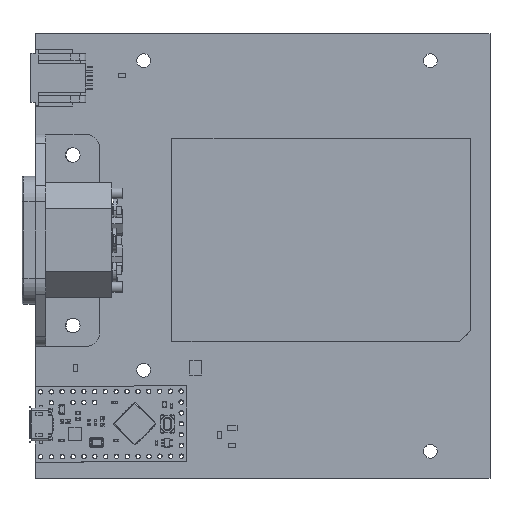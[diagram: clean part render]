
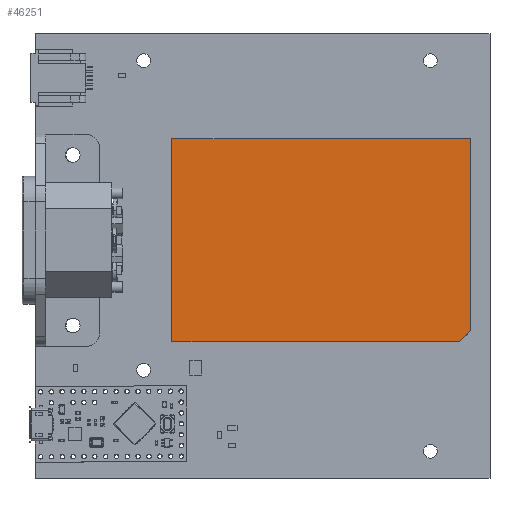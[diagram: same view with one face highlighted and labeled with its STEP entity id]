
A CAD part, top view. The second image highlights one B-rep face of the part: STEP entity #46251.
In plain terms, the highlighted planar face has unit normal (0, 0, 1).
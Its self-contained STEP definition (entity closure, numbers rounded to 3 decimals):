
#46090 = VERTEX_POINT('',#46091);
#46091 = CARTESIAN_POINT('',(-35.,23.75,24.13));
#46097 = EDGE_CURVE('',#46090,#46098,#46100,.T.);
#46098 = VERTEX_POINT('',#46099);
#46099 = CARTESIAN_POINT('',(-35.,-23.75,24.13));
#46100 = LINE('',#46101,#46102);
#46101 = CARTESIAN_POINT('',(-35.,23.75,24.13));
#46102 = VECTOR('',#46103,1.);
#46103 = DIRECTION('',(0.,-1.,0.));
#46128 = EDGE_CURVE('',#46098,#46129,#46131,.T.);
#46129 = VERTEX_POINT('',#46130);
#46130 = CARTESIAN_POINT('',(32.5,-23.75,24.13));
#46131 = LINE('',#46132,#46133);
#46132 = CARTESIAN_POINT('',(-35.,-23.75,24.13));
#46133 = VECTOR('',#46134,1.);
#46134 = DIRECTION('',(1.,0.,0.));
#46159 = EDGE_CURVE('',#46129,#46160,#46162,.T.);
#46160 = VERTEX_POINT('',#46161);
#46161 = CARTESIAN_POINT('',(35.,-21.25,24.13));
#46162 = LINE('',#46163,#46164);
#46163 = CARTESIAN_POINT('',(32.5,-23.75,24.13));
#46164 = VECTOR('',#46165,1.);
#46165 = DIRECTION('',(0.707,0.707,0.));
#46190 = EDGE_CURVE('',#46160,#46191,#46193,.T.);
#46191 = VERTEX_POINT('',#46192);
#46192 = CARTESIAN_POINT('',(35.,23.75,24.13));
#46193 = LINE('',#46194,#46195);
#46194 = CARTESIAN_POINT('',(35.,-21.25,24.13));
#46195 = VECTOR('',#46196,1.);
#46196 = DIRECTION('',(0.,1.,0.));
#46221 = EDGE_CURVE('',#46191,#46090,#46222,.T.);
#46222 = LINE('',#46223,#46224);
#46223 = CARTESIAN_POINT('',(35.,23.75,24.13));
#46224 = VECTOR('',#46225,1.);
#46225 = DIRECTION('',(-1.,0.,0.));
#46251 = ADVANCED_FACE('',(#46252),#46259,.F.);
#46252 = FACE_BOUND('',#46253,.T.);
#46253 = EDGE_LOOP('',(#46254,#46255,#46256,#46257,#46258));
#46254 = ORIENTED_EDGE('',*,*,#46097,.T.);
#46255 = ORIENTED_EDGE('',*,*,#46128,.T.);
#46256 = ORIENTED_EDGE('',*,*,#46159,.T.);
#46257 = ORIENTED_EDGE('',*,*,#46190,.T.);
#46258 = ORIENTED_EDGE('',*,*,#46221,.T.);
#46259 = PLANE('',#46260);
#46260 = AXIS2_PLACEMENT_3D('',#46261,#46262,#46263);
#46261 = CARTESIAN_POINT('',(-35.,23.75,24.13));
#46262 = DIRECTION('',(0.,0.,-1.));
#46263 = DIRECTION('',(-1.,0.,0.));
